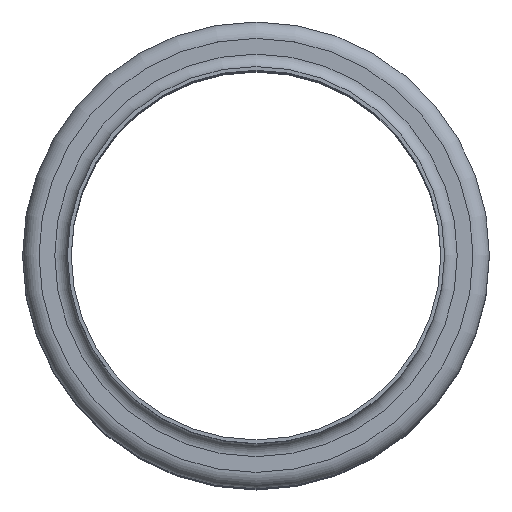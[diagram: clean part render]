
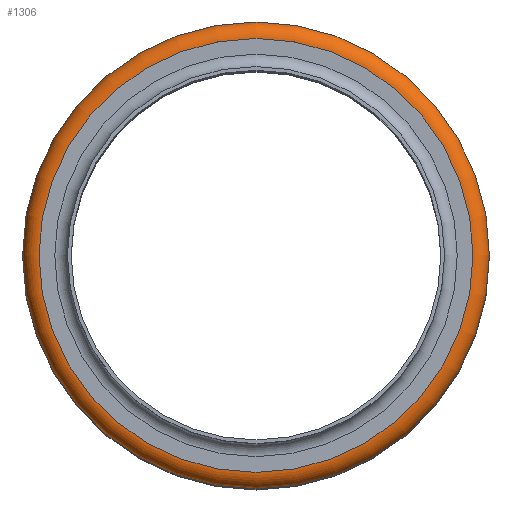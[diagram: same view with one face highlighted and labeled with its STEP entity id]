
A CAD part, top view. The second image highlights one B-rep face of the part: STEP entity #1306.
In plain terms, the highlighted toroidal (fillet/blend) face has major radius 35.414 mm and minor radius 2.686 mm.
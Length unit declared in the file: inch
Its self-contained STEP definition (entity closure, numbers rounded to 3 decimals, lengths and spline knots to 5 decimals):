
#79=TOROIDAL_SURFACE('',#1577,1.39425,0.10575);
#230=FACE_OUTER_BOUND('',#385,.T.);
#385=EDGE_LOOP('',(#1110,#1111,#1112,#1113));
#546=CIRCLE('',#1576,1.39425);
#547=CIRCLE('',#1578,1.39425);
#548=CIRCLE('',#1579,0.10575);
#659=VERTEX_POINT('',#2474);
#660=VERTEX_POINT('',#2477);
#812=EDGE_CURVE('',#659,#659,#546,.T.);
#813=EDGE_CURVE('',#660,#660,#547,.T.);
#814=EDGE_CURVE('',#660,#659,#548,.T.);
#1110=ORIENTED_EDGE('',*,*,#813,.F.);
#1111=ORIENTED_EDGE('',*,*,#814,.T.);
#1112=ORIENTED_EDGE('',*,*,#812,.T.);
#1113=ORIENTED_EDGE('',*,*,#814,.F.);
#1306=ADVANCED_FACE('',(#230),#79,.T.);
#1576=AXIS2_PLACEMENT_3D('',#2475,#2074,#2075);
#1577=AXIS2_PLACEMENT_3D('',#2476,#2076,#2077);
#1578=AXIS2_PLACEMENT_3D('',#2478,#2078,#2079);
#1579=AXIS2_PLACEMENT_3D('',#2479,#2080,#2081);
#2074=DIRECTION('center_axis',(0.,0.,-1.));
#2075=DIRECTION('ref_axis',(1.,0.,0.));
#2076=DIRECTION('center_axis',(0.,0.,-1.));
#2077=DIRECTION('ref_axis',(-1.,0.,0.));
#2078=DIRECTION('center_axis',(0.,0.,-1.));
#2079=DIRECTION('ref_axis',(1.,0.,0.));
#2080=DIRECTION('center_axis',(0.,-1.,0.));
#2081=DIRECTION('ref_axis',(1.,0.,0.));
#2474=CARTESIAN_POINT('',(1.39425,0.,-0.08175));
#2475=CARTESIAN_POINT('Origin',(0.,0.,-0.08175));
#2476=CARTESIAN_POINT('Origin',(0.,0.,-0.1875));
#2477=CARTESIAN_POINT('',(1.39425,0.,-0.29325));
#2478=CARTESIAN_POINT('Origin',(0.,0.,-0.29325));
#2479=CARTESIAN_POINT('Origin',(1.39425,0.,-0.1875));
